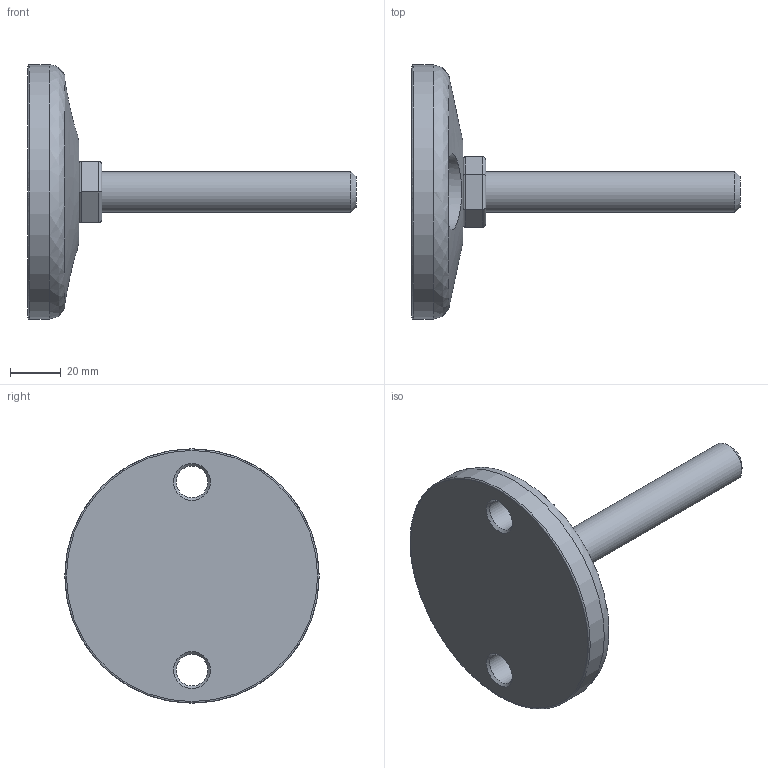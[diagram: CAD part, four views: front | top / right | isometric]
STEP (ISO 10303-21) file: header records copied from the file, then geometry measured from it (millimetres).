
FILE_DESCRIPTION(('STEP AP203'),'2;1');
FILE_NAME('12118.stp','2016-07-22T10:25:03',(''),(''),'2008.1.107','THINKDESIGN','');
FILE_SCHEMA(('CONFIG_CONTROL_DESIGN'));
Length unit declared in the file: millimetre
Bounding box: 129 x 100 x 100 mm (x, y, z)
Volume: 149658.9 mm3; surface area: 27445.4 mm2
Topology: 3 solids, 3 shells, 40 faces, 94 edges, 60 vertices
Faces by surface type: cylinder 18, plane 14, bspline 8
Full cylindrical faces by diameter (mm): 12.5 x2, 16 x1, 100 x1
Entity records: 2053 total; most frequent: CARTESIAN_POINT 1054, ORIENTED_EDGE 188, DIRECTION 182, EDGE_CURVE 94, AXIS2_PLACEMENT_3D 71, VERTEX_POINT 60, EDGE_LOOP 44, FACE_OUTER_BOUND 40
